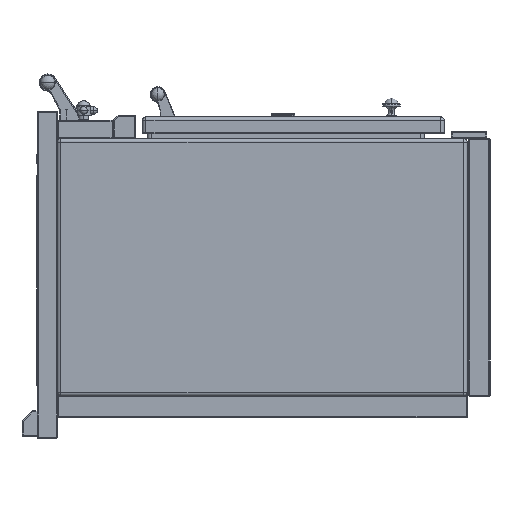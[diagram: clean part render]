
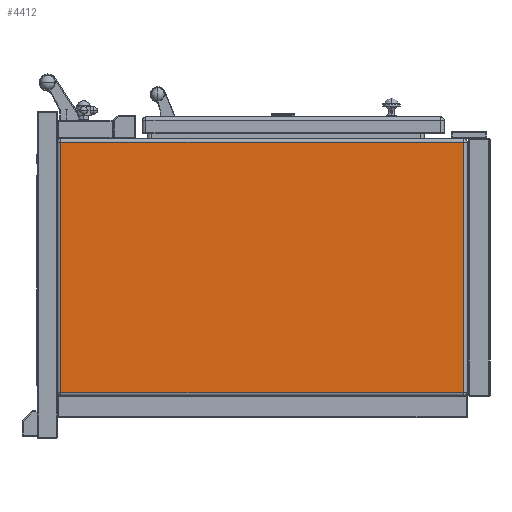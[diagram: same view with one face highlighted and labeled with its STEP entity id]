
A CAD part, left-side view. The second image highlights one B-rep face of the part: STEP entity #4412.
In plain terms, the highlighted planar face has unit normal (-1, 0, 0) as drawn and (1, 0, 0) by its records, which use the part's own axes.
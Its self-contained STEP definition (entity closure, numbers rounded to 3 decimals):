
#840=DIRECTION('',(0.,-1.,0.));
#841=VECTOR('',#840,801.);
#842=CARTESIAN_POINT('',(700.,853.5,-249.));
#843=LINE('',#842,#841);
#844=DIRECTION('',(0.,0.,1.));
#845=VECTOR('',#844,498.);
#846=CARTESIAN_POINT('',(700.,52.5,-249.));
#847=LINE('',#846,#845);
#848=DIRECTION('',(0.,1.,0.));
#849=VECTOR('',#848,801.);
#850=CARTESIAN_POINT('',(700.,52.5,249.));
#851=LINE('',#850,#849);
#852=DIRECTION('',(0.,0.,-1.));
#853=VECTOR('',#852,498.);
#854=CARTESIAN_POINT('',(700.,853.5,249.));
#855=LINE('',#854,#853);
#2850=CARTESIAN_POINT('',(700.,853.5,-249.));
#2851=CARTESIAN_POINT('',(700.,52.5,-249.));
#2852=VERTEX_POINT('',#2850);
#2853=VERTEX_POINT('',#2851);
#2872=CARTESIAN_POINT('',(700.,52.5,249.));
#2873=VERTEX_POINT('',#2872);
#2878=CARTESIAN_POINT('',(700.,853.5,249.));
#2879=VERTEX_POINT('',#2878);
#4400=CARTESIAN_POINT('',(700.,0.,0.));
#4401=DIRECTION('',(-1.,0.,0.));
#4402=DIRECTION('',(0.,0.,1.));
#4403=AXIS2_PLACEMENT_3D('',#4400,#4401,#4402);
#4404=PLANE('',#4403);
#4405=ORIENTED_EDGE('',*,*,#3972,.T.);
#4406=ORIENTED_EDGE('',*,*,#4001,.T.);
#4408=ORIENTED_EDGE('',*,*,#4407,.T.);
#4409=ORIENTED_EDGE('',*,*,#4391,.T.);
#4410=EDGE_LOOP('',(#4405,#4406,#4408,#4409));
#4411=FACE_OUTER_BOUND('',#4410,.F.);
#3972=EDGE_CURVE('',#2852,#2853,#843,.T.);
#4001=EDGE_CURVE('',#2853,#2873,#847,.T.);
#4391=EDGE_CURVE('',#2879,#2852,#855,.T.);
#4407=EDGE_CURVE('',#2873,#2879,#851,.T.);
#4412=ADVANCED_FACE('',(#4411),#4404,.F.);
